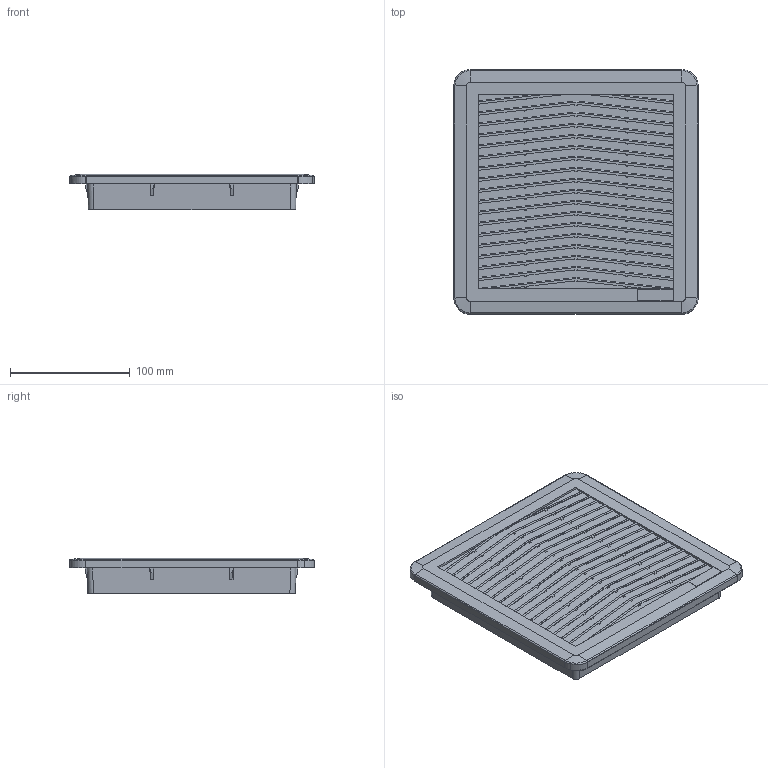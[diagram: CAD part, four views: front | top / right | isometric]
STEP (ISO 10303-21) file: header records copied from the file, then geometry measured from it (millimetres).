
FILE_DESCRIPTION (( 'STEP AP214' ), '1' );
FILE_NAME ('FF13y.STEP', '2023-09-15T11:57:37', ( '' ), ( '' ), 'SwSTEP 2.0', 'SolidWorks 2022', '' );
FILE_SCHEMA (( 'AUTOMOTIVE_DESIGN' ));
Length unit declared in the file: millimetre
Products named in the file (4): DT-00243DSI_Semplificata; DT-00244DSI_Semplificato; DT-04082DSI_mostrina semplificata; FF13y
Assembly tree (3 placements, depth 2):
  FF13y
    DT-00244DSI_Semplificato
    DT-00243DSI_Semplificata
    DT-04082DSI_mostrina semplificata
Bounding box: 203.81 x 204.22 x 29.77 mm (x, y, z)
Volume: 1175815.9 mm3; surface area: 197616.2 mm2
Topology: 3 solids, 3 shells, 428 faces, 1247 edges, 828 vertices
Faces by surface type: plane 400, cylinder 20, cone 4, torus 4
Entity records: 14414 total; most frequent: CARTESIAN_POINT 2533, ORIENTED_EDGE 2494, DIRECTION 2151, EDGE_CURVE 1247, LINE 1195, VECTOR 1195, VERTEX_POINT 828, AXIS2_PLACEMENT_3D 478
